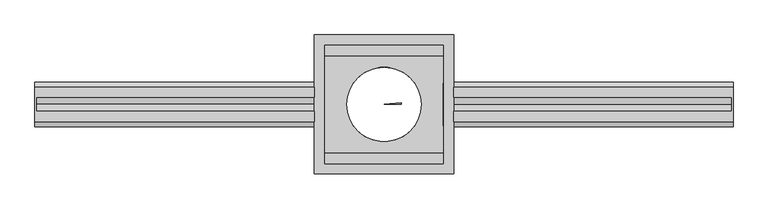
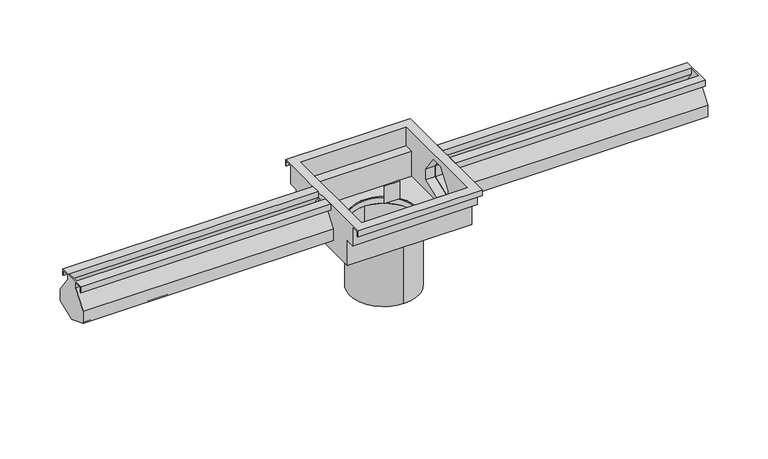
"""IFC4 building model written with IfcOpenShell, lengths in millimetres: sanitary terminal geometry, PF_SS_WPB_Modul 20 : Centered outlet without siphon housing."""

from ifc_helpers import new_model, si_unit, point, frame, origin, origin_2d, place, context, project, spatial, polyline, circle_curve, trimmed, segment, composite_curve, outline, extrude, faceted_brep, source, transform, mapped, element, save
from ifc_brep_helpers import plane_surface, cylinder_surface, revolved_surface, advanced_brep


def sanitary_terminal_8828e980(model_context):
    return source(origin(), model_context, "Body", "SolidModel", [
        extrude(outline(composite_curve([segment(trimmed(circle_curve(origin_2d(), 55.0), [point((0.0, 55.0))], [point((0.0, -55.0))], False, "CARTESIAN"), True, "CONTINUOUS"), segment(trimmed(circle_curve(origin_2d(), 55.0), [point((0.0, -55.0))], [point((0.0, 55.0))], False, "CARTESIAN"), True, "CONTINUOUS")], self_intersect=False), holes=[composite_curve([segment(trimmed(circle_curve(origin_2d(), 53.5), [point((0.0, 53.5))], [point((0.0, -53.5))], True, "CARTESIAN"), True, "CONTINUOUS"), segment(trimmed(circle_curve(origin_2d(), 53.5), [point((0.0, -53.5))], [point((0.0, 53.5))], True, "CARTESIAN"), True, "CONTINUOUS")], self_intersect=False)]), frame((0.0, 0.0, -186.0), z_axis=(0.0, 0.0, 1.0), x_axis=(1.0, 0.0, 0.0)), (0.0, 0.0, 1.0), 100.0),
        faceted_brep([(-100.0, -25.0, 0.0), (-100.0, -25.0, -10.0), (-100.0, -23.5, -10.0), (-100.0, -23.5, -1.5), (-100.0, -11.5, -1.5), (-100.0, -11.5, -9.5126205), (-100.0, -32.0, -37.7284498), (-100.0, -32.0, -57.5070441), (-100.0, 0.0, -70.1121794), (-100.0, 32.0, -57.5070441), (-100.0, 32.0, -37.7284498), (-100.0, 11.5, -9.5126205), (-100.0, 11.5, -1.5), (-100.0, 23.5294496, -1.5), (-100.0, 23.5294496, -10.0), (-100.0, 25.0294496, -10.0), (-100.0, 25.0294496, 0.0), (-100.0, 10.0, 0.0), (-100.0, 10.0, -10.0), (-100.0, 30.5, -38.2158294), (-100.0, 30.5, -56.4857305), (-100.0, 0.0, -68.5), (-100.0, -30.5, -56.4857305), (-100.0, -30.5, -38.2158294), (-100.0, -10.0, -10.0), (-100.0, -10.0, 0.0), (-502.0, -32.0, -57.5070441), (-502.0, -32.0, -37.7284498), (-502.0, -11.5, -9.5126205), (-502.0, -11.5, -1.5), (-502.0, -23.0, -1.5), (-502.0, -23.0, -10.0), (-502.0, -25.0, -10.0), (-502.0, -25.0, 0.0), (-502.0, 25.0, 0.0), (-502.0, 25.0, -10.0), (-502.0, 23.5, -10.0), (-502.0, 23.5, -1.5), (-502.0, 11.5, -1.5), (-502.0, 11.5, -9.5126205), (-502.0, 32.0, -37.7284498), (-502.0, 32.0, -57.5070441), (-502.0, 0.0, -70.1121794), (-500.0, -23.0, -10.0), (-500.0, -23.0, -1.5), (-500.0, -23.5, -1.5), (-500.0, -23.5, -10.0), (-500.0, 10.0, 0.0), (-500.0, -10.0, 0.0), (-500.0, -10.0, -10.0), (-500.0, -30.5, -38.2158294), (-500.0, -30.5, -56.4857305), (-500.0, 0.0, -68.5), (-500.0, 30.5, -56.4857305), (-500.0, 30.5, -38.2158294), (-500.0, 10.0, -10.0)], [[[0, 1, 2, 3, 4, 5, 6, 7, 8, 9, 10, 11, 12, 13, 14, 15, 16, 17, 18, 19, 20, 21, 22, 23, 24, 25]], [[26, 27, 28, 29, 30, 31, 32, 33, 34, 35, 36, 37, 38, 39, 40, 41, 42]], [[43, 44, 45, 46]], [[47, 48, 49, 50, 51, 52, 53, 54, 55]], [[31, 30, 44, 43]], [[0, 25, 48, 47, 17, 16, 34, 33]], [[25, 24, 49, 48]], [[24, 23, 50, 49]], [[23, 22, 51, 50]], [[22, 21, 52, 51]], [[21, 20, 53, 52]], [[20, 19, 54, 53]], [[19, 18, 55, 54]], [[18, 17, 47, 55]], [[34, 16, 15, 35]], [[35, 15, 14, 36]], [[36, 14, 13, 37]], [[37, 13, 12, 38]], [[38, 12, 11, 39]], [[39, 11, 10, 40]], [[40, 10, 9, 41]], [[41, 9, 8, 42]], [[42, 8, 7, 26]], [[26, 7, 6, 27]], [[27, 6, 5, 28]], [[28, 5, 4, 29]], [[29, 4, 3, 45, 44, 30]], [[3, 2, 46, 45]], [[2, 1, 32, 31, 43, 46]], [[32, 1, 0, 33]]]),
        faceted_brep([(100.0, -10.0, 0.0), (100.0, -10.0, -10.0), (100.0, -30.5, -38.2158294), (100.0, -30.5, -56.4857305), (100.0, 0.0, -68.5), (100.0, 30.5, -56.4857305), (100.0, 30.5, -38.2158294), (100.0, 10.0, -10.0), (100.0, 10.0, 0.0), (100.0, 25.0, 0.0), (100.0, 25.0, -10.0), (100.0, 23.5, -10.0), (100.0, 23.5, -1.5), (100.0, 11.5, -1.5), (100.0, 11.5, -9.5126205), (100.0, 32.0, -37.7284498), (100.0, 32.0, -57.5070441), (100.0, 0.0, -70.1121794), (100.0, -32.0, -57.5070441), (100.0, -32.0, -37.7284498), (100.0, -11.5, -9.5126205), (100.0, -11.5, -1.5), (100.0, -23.0, -1.5), (100.0, -23.0, -10.0), (100.0, -25.0, -10.0), (100.0, -25.0, 0.0), (502.0, -25.0, 0.0), (502.0, 25.0, 0.0), (500.0, 10.0, 0.0), (500.0, -10.0, 0.0), (502.0, -25.0, -10.0), (502.0, -23.0, -10.0), (502.0, -23.0, -1.5), (502.0, -11.5, -1.5), (502.0, -11.5, -9.5126205), (502.0, -32.0, -37.7284498), (502.0, -32.0, -57.5070441), (502.0, 0.0, -70.1121794), (502.0, 32.0, -57.5070441), (502.0, 32.0, -37.7284498), (502.0, 11.5, -9.5126205), (502.0, 11.5, -1.5), (502.0, 23.5, -1.5), (502.0, 23.5, -10.0), (502.0, 25.0, -10.0), (500.0, 10.0, -10.0), (500.0, 30.5, -38.2158294), (500.0, 30.5, -56.4857305), (500.0, 0.0, -68.5), (500.0, -30.5, -56.4857305), (500.0, -30.5, -38.2158294), (500.0, -10.0, -10.0)], [[[0, 1, 2, 3, 4, 5, 6, 7, 8, 9, 10, 11, 12, 13, 14, 15, 16, 17, 18, 19, 20, 21, 22, 23, 24, 25]], [[0, 25, 26, 27, 9, 8, 28, 29]], [[26, 25, 24, 30]], [[30, 24, 23, 31]], [[31, 23, 22, 32]], [[32, 22, 21, 33]], [[33, 21, 20, 34]], [[34, 20, 19, 35]], [[35, 19, 18, 36]], [[36, 18, 17, 37]], [[37, 17, 16, 38]], [[38, 16, 15, 39]], [[39, 15, 14, 40]], [[40, 14, 13, 41]], [[41, 13, 12, 42]], [[42, 12, 11, 43]], [[43, 11, 10, 44]], [[44, 10, 9, 27]], [[8, 7, 45, 28]], [[7, 6, 46, 45]], [[6, 5, 47, 46]], [[5, 4, 48, 47]], [[4, 3, 49, 48]], [[3, 2, 50, 49]], [[2, 1, 51, 50]], [[1, 0, 29, 51]], [[36, 37, 38, 39, 40, 41, 42, 43, 44, 27, 26, 30, 31, 32, 33, 34, 35]], [[29, 28, 45, 46, 47, 48, 49, 50, 51]]]),
        advanced_brep(
        [(-53.5, 0.0, -74.5), (-53.5, 0.0, -76.0), (53.5, 0.0, -76.0), (53.5, 0.0, -74.5), (85.0, -85.0, 0.0), (85.0, 85.0, 0.0), (85.0, 85.0, -32.0), (85.0, 70.0, -32.0), (85.0, 70.0, -74.5), (85.0, -70.0, -74.5), (85.0, -70.0, -32.0), (85.0, -85.0, -32.0), (85.0, -10.0, -10.0), (85.0, -30.5, -38.2158294), (85.0, -30.5, -56.4857305), (85.0, 0.0, -68.5), (85.0, 30.5, -56.4857305), (85.0, 30.5, -38.2158294), (85.0, 10.0, -10.0), (100.0, -10.0, -10.0), (100.0, -30.5, -38.2158294), (100.0, 10.0, -10.0), (100.0, 30.5, -38.2158294), (100.0, 30.5, -56.4857305), (100.0, 0.0, -68.5), (100.0, -30.5, -56.4857305), (-85.0, 85.0, 0.0), (-85.0, -85.0, 0.0), (-85.0, -85.0, -32.0), (-85.0, -70.0, -32.0), (-85.0, -70.0, -74.5), (-85.0, 70.0, -74.5), (-85.0, 70.0, -32.0), (-85.0, 85.0, -32.0), (-95.0, -10.0, -10.0), (-95.0, -30.5, -38.2158294), (-100.0, -30.5, -38.2158294), (-100.0, -10.0, -10.0), (-95.0, 10.0, -10.0), (-100.0, 10.0, -10.0), (-95.0, 30.5, -38.2158294), (-100.0, 30.5, -38.2158294), (-95.0, 30.5, -56.4857305), (-100.0, 30.5, -56.4857305), (-95.0, 0.0, -68.5), (-100.0, 0.0, -68.5), (-95.0, -30.5, -56.4857305), (-100.0, -30.5, -56.4857305), (0.0, 55.0, -86.0), (0.0, -55.0, -86.0), (53.5, 0.0, -86.0), (-53.5, 0.0, -86.0), (0.0, -55.0, -76.0), (0.0, 55.0, -76.0), (100.0, -100.0, 0.0), (100.0, -100.0, -10.0), (100.0, -98.5, -10.0), (100.0, -98.5, -1.5), (100.0, -86.5, -1.5), (100.0, -86.5, -33.5), (100.0, -71.5, -33.5), (100.0, -71.5, -76.0), (100.0, 71.5, -76.0), (100.0, 71.5, -33.5), (100.0, 86.5, -33.5), (100.0, 86.5, -1.5), (100.0, 98.5, -1.5), (100.0, 98.5, -10.0), (100.0, 100.0, -10.0), (100.0, 100.0, 0.0), (-100.0, 100.0, 0.0), (-100.0, 100.0, -10.0), (-100.0, 98.5, -10.0), (-100.0, 98.5, -1.5), (-100.0, 86.5, -1.5), (-100.0, 86.5, -33.5), (-100.0, 71.5, -33.5), (-100.0, 71.5, -76.0), (-100.0, -71.5, -76.0), (-100.0, -71.5, -33.5), (-100.0, -86.5, -33.5), (-100.0, -86.5, -1.5), (-100.0, -98.5, -1.5), (-100.0, -98.5, -10.0), (-100.0, -100.0, -10.0), (-100.0, -100.0, 0.0)],
        [
            (0, 1),
            (1, 2, circle_curve(frame((0.0, 0.0, -76.0), z_axis=(0.0, 0.0, -1.0), x_axis=(1.0, 0.0, 0.0)), 53.5)),
            (2, 3),
            (3, 0, circle_curve(frame((0.0, 0.0, -74.5), z_axis=(0.0, 0.0, 1.0), x_axis=(1.0, 0.0, 0.0)), 53.5)),
            (0, 3, circle_curve(frame((0.0, 0.0, -74.5), z_axis=(0.0, 0.0, 1.0), x_axis=(1.0, 0.0, 0.0)), 53.5)),
            (2, 1, circle_curve(frame((0.0, 0.0, -76.0), z_axis=(0.0, 0.0, -1.0), x_axis=(1.0, 0.0, 0.0)), 53.5)),
            (4, 5),
            (5, 6),
            (6, 7),
            (7, 8),
            (8, 9),
            (9, 10),
            (10, 11),
            (11, 4),
            (12, 13),
            (13, 14),
            (14, 15),
            (15, 16),
            (16, 17),
            (17, 18),
            (18, 12),
            (12, 19),
            (19, 20),
            (20, 13),
            (18, 21),
            (21, 19),
            (17, 22),
            (22, 21),
            (16, 23),
            (23, 22),
            (15, 24),
            (24, 23),
            (14, 25),
            (25, 24),
            (20, 25),
            (26, 27),
            (27, 28),
            (28, 29),
            (29, 30),
            (30, 31),
            (31, 32),
            (32, 33),
            (33, 26),
            (34, 35),
            (35, 36),
            (36, 37),
            (37, 34),
            (38, 34),
            (37, 39),
            (39, 38),
            (40, 38),
            (39, 41),
            (41, 40),
            (42, 40),
            (41, 43),
            (43, 42),
            (44, 42),
            (43, 45),
            (45, 44),
            (46, 44),
            (45, 47),
            (47, 46),
            (35, 46),
            (47, 36),
            (48, 49, circle_curve(frame((0.0, 0.0, -86.0), z_axis=(0.0, 0.0, -1.0), x_axis=(0.0, -1.0, 0.0)), 55.0)),
            (49, 48, circle_curve(frame((0.0, 0.0, -86.0), z_axis=(0.0, 0.0, -1.0), x_axis=(0.0, -1.0, 0.0)), 55.0)),
            (50, 51, circle_curve(frame((0.0, 0.0, -86.0), z_axis=(0.0, 0.0, 1.0), x_axis=(1.0, 0.0, 0.0)), 53.5)),
            (51, 50, circle_curve(frame((0.0, 0.0, -86.0), z_axis=(0.0, 0.0, 1.0), x_axis=(1.0, 0.0, 0.0)), 53.5)),
            (49, 52),
            (52, 53, circle_curve(frame((0.0, 0.0, -76.0), z_axis=(0.0, 0.0, -1.0), x_axis=(0.0, -1.0, 0.0)), 55.0)),
            (53, 48),
            (53, 52, circle_curve(frame((0.0, 0.0, -76.0), z_axis=(0.0, 0.0, -1.0), x_axis=(0.0, -1.0, 0.0)), 55.0)),
            (54, 55),
            (55, 56),
            (56, 57),
            (57, 58),
            (58, 59),
            (59, 60),
            (60, 61),
            (61, 62),
            (62, 63),
            (63, 64),
            (64, 65),
            (65, 66),
            (66, 67),
            (67, 68),
            (68, 69),
            (69, 54),
            (70, 71),
            (71, 72),
            (72, 73),
            (73, 74),
            (74, 75),
            (75, 76),
            (76, 77),
            (77, 78),
            (78, 79),
            (79, 80),
            (80, 81),
            (81, 82),
            (82, 83),
            (83, 84),
            (84, 85),
            (85, 70),
            (54, 85),
            (84, 55),
            (83, 56),
            (57, 82),
            (81, 58),
            (61, 78),
            (77, 62),
            (67, 72),
            (71, 68),
            (70, 69),
            (4, 27),
            (26, 5),
            (33, 6),
            (11, 28),
            (59, 80),
            (79, 60),
            (32, 7),
            (31, 8),
            (30, 9),
            (29, 10),
            (1, 51),
            (50, 2),
            (76, 63),
            (75, 64),
            (74, 65),
            (73, 66),
        ],
        [
            revolved_surface(polyline([(53.5, 0.0, -76.0), (53.5, 0.0, -74.5)]), (0.0, 0.0, -74.5), (0.0, 0.0, -1.0)),
            plane_surface(frame((85.0, -85.0, 0.0), z_axis=(-1.0, 0.0, 0.0), x_axis=(0.0, 1.0, 0.0))),
            plane_surface(frame((85.0, -30.5, -38.2158294), z_axis=(0.0, 0.8090169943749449, -0.5877852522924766), x_axis=(1.0, 0.0, 0.0))),
            plane_surface(frame((85.0, -10.0, -10.0), z_axis=(0.0, 0.0, -1.0), x_axis=(1.0, 0.0, 0.0))),
            plane_surface(frame((85.0, 10.0, -10.0), z_axis=(0.0, -0.8090169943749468, -0.5877852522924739), x_axis=(1.0, 0.0, 0.0))),
            plane_surface(frame((85.0, 30.5, -38.2158294), z_axis=(0.0, -1.0, 0.0), x_axis=(1.0, 0.0, 0.0))),
            plane_surface(frame((85.0, 30.5, -56.4857305), z_axis=(0.0, -0.36650122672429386, 0.9304175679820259), x_axis=(1.0, 0.0, 0.0))),
            plane_surface(frame((85.0, 0.0, -68.5), z_axis=(0.0, 0.3665012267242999, 0.9304175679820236), x_axis=(1.0, 0.0, 0.0))),
            plane_surface(frame((85.0, -30.5, -56.4857305), z_axis=(0.0, 1.0, 0.0), x_axis=(1.0, 0.0, 0.0))),
            plane_surface(frame((-85.0, -85.0, 0.0), z_axis=(1.0, 0.0, 0.0), x_axis=(0.0, 0.0, -1.0))),
            plane_surface(frame((-95.0, -10.0, -10.0), z_axis=(0.0, 0.8090169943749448, -0.5877852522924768), x_axis=(-1.0, 0.0, 0.0))),
            plane_surface(frame((-95.0, 10.0, -10.0), z_axis=(0.0, 0.0, -1.0), x_axis=(-1.0, 0.0, 0.0))),
            plane_surface(frame((-95.0, 30.5, -38.2158294), z_axis=(0.0, -0.8090169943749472, -0.5877852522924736), x_axis=(-1.0, 0.0, 0.0))),
            plane_surface(frame((-95.0, 30.5, -56.4857305), z_axis=(0.0, -1.0, 0.0), x_axis=(-1.0, 0.0, 0.0))),
            plane_surface(frame((-95.0, 0.0, -68.5), z_axis=(0.0, -0.3665012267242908, 0.9304175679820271), x_axis=(-1.0, 0.0, 0.0))),
            plane_surface(frame((-95.0, -30.5, -56.4857305), z_axis=(0.0, 0.3665012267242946, 0.9304175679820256), x_axis=(-1.0, 0.0, 0.0))),
            plane_surface(frame((-95.0, -30.5, -38.2158294), z_axis=(0.0, 1.0, 0.0), x_axis=(-1.0, 0.0, 0.0))),
            plane_surface(frame((0.0, -55.0, -86.0), z_axis=(0.0, 0.0, -1.0), x_axis=(-1.0, 0.0, 0.0))),
            cylinder_surface(frame((0.0, 0.0, -86.0), z_axis=(0.0, 0.0, 1.0), x_axis=(0.0, -1.0, 0.0)), 55.0),
            plane_surface(frame((100.0, -100.0, -10.0), z_axis=(1.0, 0.0, 0.0), x_axis=(0.0, 0.0, -1.0))),
            plane_surface(frame((-100.0, -100.0, -10.0), z_axis=(-1.0, 0.0, 0.0), x_axis=(0.0, 0.0, 1.0))),
            plane_surface(frame((100.0, -100.0, 0.0), z_axis=(0.0, -1.0, 0.0), x_axis=(-1.0, 0.0, 0.0))),
            plane_surface(frame((100.0, -100.0, -10.0), z_axis=(0.0, 0.0, -1.0), x_axis=(-1.0, 0.0, 0.0))),
            plane_surface(frame((100.0, -98.5, -1.5), z_axis=(0.0, 0.0, -1.0), x_axis=(-1.0, 0.0, 0.0))),
            plane_surface(frame((100.0, -71.5, -76.0), z_axis=(0.0, 0.0, -1.0), x_axis=(-1.0, 0.0, 0.0))),
            plane_surface(frame((100.0, 98.5, -10.0), z_axis=(0.0, 0.0, -1.0), x_axis=(-1.0, 0.0, 0.0))),
            plane_surface(frame((100.0, 100.0, -10.0), z_axis=(0.0, 1.0, 0.0), x_axis=(-1.0, 0.0, 0.0))),
            plane_surface(frame((100.0, 100.0, 0.0), z_axis=(0.0, 0.0, 1.0), x_axis=(-1.0, 0.0, 0.0))),
            plane_surface(frame((100.0, 85.0, 0.0), z_axis=(0.0, -1.0, 0.0), x_axis=(-1.0, 0.0, 0.0))),
            plane_surface(frame((100.0, -85.0, -32.0), z_axis=(0.0, 1.0, 0.0), x_axis=(-1.0, 0.0, 0.0))),
            plane_surface(frame((100.0, -86.5, -33.5), z_axis=(0.0, 0.0, -1.0), x_axis=(-1.0, 0.0, 0.0))),
            plane_surface(frame((100.0, 85.0, -32.0), z_axis=(0.0, 0.0, 1.0), x_axis=(-1.0, 0.0, 0.0))),
            plane_surface(frame((100.0, 70.0, -32.0), z_axis=(0.0, -1.0, 0.0), x_axis=(-1.0, 0.0, 0.0))),
            plane_surface(frame((100.0, 70.0, -74.5), z_axis=(0.0, 0.0, 1.0), x_axis=(-1.0, 0.0, 0.0))),
            plane_surface(frame((100.0, -70.0, -74.5), z_axis=(0.0, 1.0, 0.0), x_axis=(-1.0, 0.0, 0.0))),
            plane_surface(frame((100.0, -70.0, -32.0), z_axis=(0.0, 0.0, 1.0), x_axis=(-1.0, 0.0, 0.0))),
            revolved_surface(polyline([(53.5, 0.0, -86.0), (53.5, 0.0, -76.0)]), (0.0, 0.0, -74.5), (0.0, 0.0, -1.0)),
            plane_surface(frame((100.0, -86.5, -1.5), z_axis=(0.0, -1.0, 0.0), x_axis=(-1.0, 0.0, 0.0))),
            plane_surface(frame((100.0, -98.5, -10.0), z_axis=(0.0, 1.0, 0.0), x_axis=(-1.0, 0.0, 0.0))),
            plane_surface(frame((100.0, -71.5, -33.5), z_axis=(0.0, -1.0, 0.0), x_axis=(-1.0, 0.0, 0.0))),
            plane_surface(frame((100.0, 71.5, -76.0), z_axis=(0.0, 1.0, 0.0), x_axis=(-1.0, 0.0, 0.0))),
            plane_surface(frame((100.0, 71.5, -33.5), z_axis=(0.0, 0.0, -1.0), x_axis=(-1.0, 0.0, 0.0))),
            plane_surface(frame((100.0, 86.5, -33.5), z_axis=(0.0, 1.0, 0.0), x_axis=(-1.0, 0.0, 0.0))),
            plane_surface(frame((100.0, 86.5, -1.5), z_axis=(0.0, 0.0, -1.0), x_axis=(-1.0, 0.0, 0.0))),
            plane_surface(frame((100.0, 98.5, -1.5), z_axis=(0.0, -1.0, 0.0), x_axis=(-1.0, 0.0, 0.0))),
            plane_surface(frame((-95.0, -30.5, -38.2158294), z_axis=(-1.0, 0.0, 0.0), x_axis=(0.0, 0.0, -1.0))),
        ],
        [
            (0, [[1, 2, 3, 4]]),
            (0, [[-1, 5, -3, 6]]),
            (1, [[7, 8, 9, 10, 11, 12, 13, 14], [15, 16, 17, 18, 19, 20, 21]]),
            (2, [[22, 23, 24, -15]]),
            (3, [[-22, -21, 25, 26]]),
            (4, [[-25, -20, 27, 28]]),
            (5, [[-27, -19, 29, 30]]),
            (6, [[-29, -18, 31, 32]]),
            (7, [[-31, -17, 33, 34]]),
            (8, [[-24, 35, -33, -16]]),
            (9, [[36, 37, 38, 39, 40, 41, 42, 43]]),
            (10, [[44, 45, 46, 47]]),
            (11, [[48, -47, 49, 50]]),
            (12, [[51, -50, 52, 53]]),
            (13, [[54, -53, 55, 56]]),
            (14, [[57, -56, 58, 59]]),
            (15, [[60, -59, 61, 62]]),
            (16, [[63, -62, 64, -45]]),
            (17, [[65, 66], [67, 68]]),
            (18, [[-66, 69, 70, 71]]),
            (18, [[-65, -71, 72, -69]]),
            (19, [[73, 74, 75, 76, 77, 78, 79, 80, 81, 82, 83, 84, 85, 86, 87, 88], [-23, -26, -28, -30, -32, -34, -35]]),
            (20, [[89, 90, 91, 92, 93, 94, 95, 96, 97, 98, 99, 100, 101, 102, 103, 104], [-46, -64, -61, -58, -55, -52, -49]]),
            (21, [[-73, 105, -103, 106]]),
            (22, [[-74, -106, -102, 107]]),
            (23, [[-76, 108, -100, 109]]),
            (24, [[-80, 110, -96, 111], [-70, -72]]),
            (25, [[-86, 112, -90, 113]]),
            (26, [[-87, -113, -89, 114]]),
            (27, [[-105, -88, -114, -104], [-7, 115, -36, 116]]),
            (28, [[-8, -116, -43, 117]]),
            (29, [[-14, 118, -37, -115]]),
            (30, [[-78, 119, -98, 120]]),
            (31, [[-9, -117, -42, 121]]),
            (32, [[-10, -121, -41, 122]]),
            (33, [[-11, -122, -40, 123], [-4, -5]]),
            (34, [[-12, -123, -39, 124]]),
            (35, [[-13, -124, -38, -118]]),
            (36, [[125, -67, 126, -2]]),
            (36, [[-125, -6, -126, -68]]),
            (37, [[-77, -109, -99, -119]]),
            (38, [[-75, -107, -101, -108]]),
            (39, [[-79, -120, -97, -110]]),
            (40, [[-81, -111, -95, 127]]),
            (41, [[-82, -127, -94, 128]]),
            (42, [[-83, -128, -93, 129]]),
            (43, [[-84, -129, -92, 130]]),
            (44, [[-85, -130, -91, -112]]),
            (45, [[-44, -48, -51, -54, -57, -60, -63]]),
        ],
    ),
        extrude(outline(composite_curve([segment(trimmed(circle_curve(origin_2d(), 25.0), [point((24.9048675, 2.1788936))], [point((25.0, 0.0))], False, "CARTESIAN"), True, "CONTINUOUS"), segment(polyline([(25.0, 0.0), (0.0, 0.0), (24.9048675, 2.1788936)]), True, "CONTINUOUS")], self_intersect=False)), frame((0.0, 0.0, -49.0844435), z_axis=(0.0, 0.0, 1.0), x_axis=(1.0, 0.0, 0.0)), (0.0, 0.0, 1.0), 30.0),
    ])


if __name__ == "__main__":
    model = new_model("IFC4")
    model_context = context("Model", 3, world=origin())
    ifc_project = project(units=[si_unit("LENGTHUNIT", "METRE", prefix="MILLI")], contexts=[model_context])
    site = spatial("IfcSite", under=ifc_project)
    building = spatial("IfcBuilding", under=site)
    placement = place(None, origin())
    sanitary_terminal_shape = sanitary_terminal_8828e980(model_context)
    element("IfcSanitaryTerminal", 1, ObjectType="PF_SS_WPB_Modul 20 : Centered outlet without siphon housing", at=placement, inside=building, context=model_context, shape_type="MappedRepresentation", body=[
        mapped(sanitary_terminal_shape, transform((0.0, 0.0, 0.0), x_axis=(1.0, 0.0, 0.0), y_axis=(0.0, 1.0, 0.0), z_axis=(0.0, 0.0, 1.0))),
    ])
    save(model, "model.ifc")
